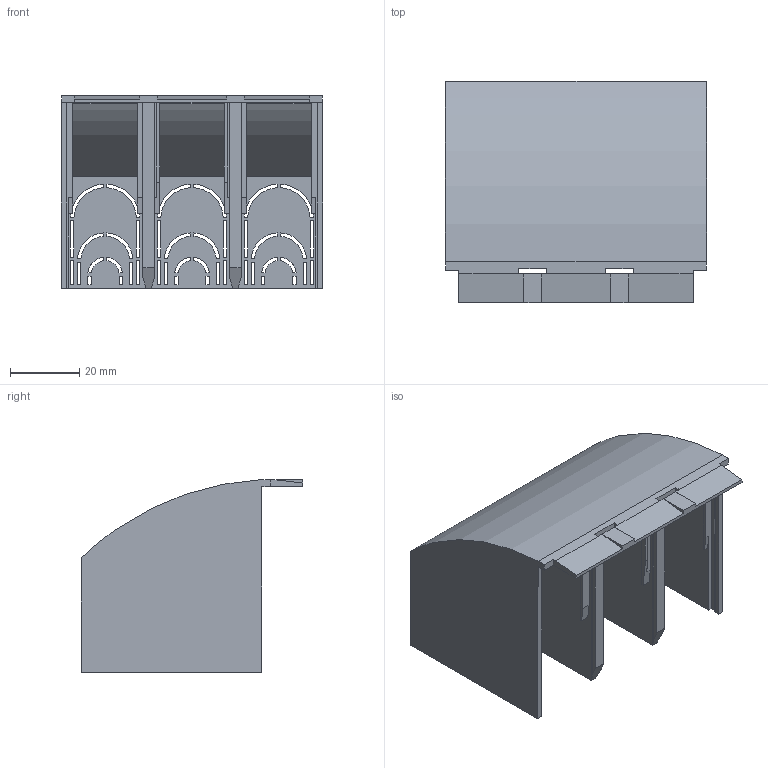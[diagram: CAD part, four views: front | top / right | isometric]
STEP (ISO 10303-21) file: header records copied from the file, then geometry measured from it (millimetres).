
FILE_DESCRIPTION (( 'STEP AP214' ), '1' );
FILE_NAME ('OptiMat E100 ñ êëåììíûìè êðûøêàìè âåðõíÿÿ.STEP', '2023-11-09T12:28:20', ( '' ), ( '' ), 'SwSTEP 2.0', 'SolidWorks 2018', '' );
FILE_SCHEMA (( 'AUTOMOTIVE_DESIGN' ));
Length unit declared in the file: millimetre
Products named in the file (2): OptiMat E100 ñ êëåììíûìè êðûøêàìè âåðõíÿÿ; Êðûøêà êëåììíàÿ OptiMat E100_Šàëèª  ª«¥¬¬­ ï ƒ†ˆŠ.735384.097
Assembly tree (1 placements, depth 2):
  OptiMat E100 ñ êëåììíûìè êðûøêàìè âåðõíÿÿ
    Êðûøêà êëåììíàÿ OptiMat E100_Šàëèª  ª«¥¬¬­ ï ƒ†ˆŠ.735384.097
Bounding box: 75.3 x 63.8 x 55.5 mm (x, y, z)
Volume: 31061.6 mm3; surface area: 36370.7 mm2
Topology: 1 solids, 1 shells, 287 faces, 855 edges, 556 vertices
Faces by surface type: plane 241, cylinder 37, cone 9
Entity records: 9735 total; most frequent: CARTESIAN_POINT 1753, ORIENTED_EDGE 1710, DIRECTION 1522, EDGE_CURVE 855, LINE 742, VECTOR 742, VERTEX_POINT 556, AXIS2_PLACEMENT_3D 390
